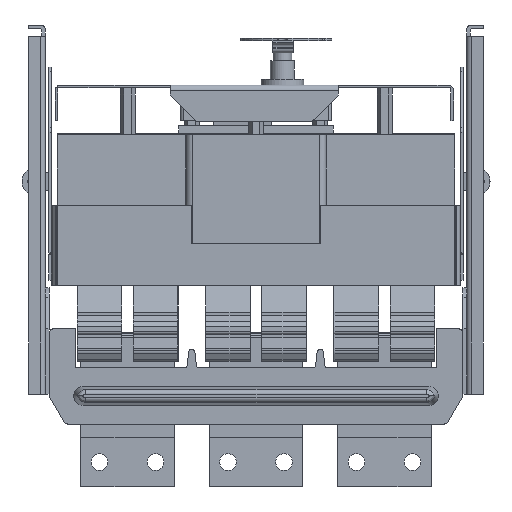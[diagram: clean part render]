
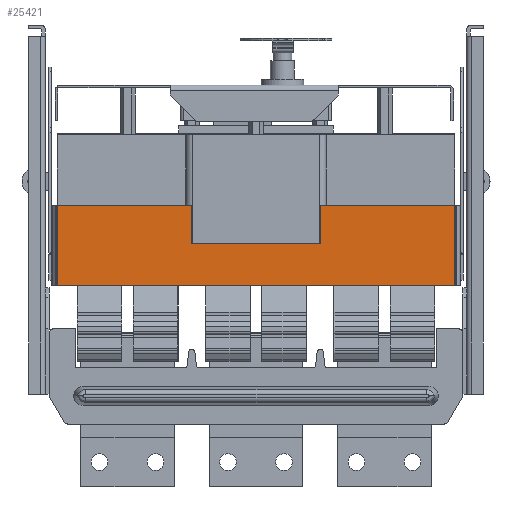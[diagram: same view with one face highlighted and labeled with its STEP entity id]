
A CAD part, front view. The second image highlights one B-rep face of the part: STEP entity #25421.
In plain terms, the highlighted planar face has unit normal (0, -1, 0).
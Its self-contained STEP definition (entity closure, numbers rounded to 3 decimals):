
#104 = EDGE_CURVE ( 'NONE', #33280, #29587, #23564, .T. ) ;
#279 = VERTEX_POINT ( 'NONE', #18992 ) ;
#545 = DIRECTION ( 'NONE',  ( 1., 0., 0. ) ) ;
#690 = CARTESIAN_POINT ( 'NONE',  ( 425., 0., 86. ) ) ;
#1281 = LINE ( 'NONE', #33480, #33387 ) ;
#1882 = ORIENTED_EDGE ( 'NONE', *, *, #33935, .F. ) ;
#1942 = VERTEX_POINT ( 'NONE', #25253 ) ;
#3554 = DIRECTION ( 'NONE',  ( -1., 0., 0. ) ) ;
#3824 = LINE ( 'NONE', #24131, #22523 ) ;
#3991 = DIRECTION ( 'NONE',  ( 0., 0., 1. ) ) ;
#4113 = VECTOR ( 'NONE', #10881, 1000. ) ;
#4268 = DIRECTION ( 'NONE',  ( 0., 0., -1. ) ) ;
#4338 = VERTEX_POINT ( 'NONE', #38911 ) ;
#5885 = CARTESIAN_POINT ( 'NONE',  ( 143.7, 0., 45. ) ) ;
#6014 = CARTESIAN_POINT ( 'NONE',  ( 143.7, 0., 86. ) ) ;
#6814 = LINE ( 'NONE', #20389, #23453 ) ;
#7518 = CARTESIAN_POINT ( 'NONE',  ( 0., 0., 315. ) ) ;
#7695 = ORIENTED_EDGE ( 'NONE', *, *, #31453, .T. ) ;
#7836 = VERTEX_POINT ( 'NONE', #32101 ) ;
#7955 = VECTOR ( 'NONE', #3991, 1000. ) ;
#8004 = EDGE_CURVE ( 'NONE', #23463, #279, #9022, .T. ) ;
#9022 = LINE ( 'NONE', #13860, #7955 ) ;
#9463 = DIRECTION ( 'NONE',  ( 1., 0., 0. ) ) ;
#9902 = LINE ( 'NONE', #690, #26494 ) ;
#9983 = VERTEX_POINT ( 'NONE', #28226 ) ;
#10375 = CARTESIAN_POINT ( 'NONE',  ( 0., 0., 0. ) ) ;
#10684 = VECTOR ( 'NONE', #9463, 1000. ) ;
#10881 = DIRECTION ( 'NONE',  ( 0., 0., -1. ) ) ;
#11081 = EDGE_CURVE ( 'NONE', #29587, #9983, #30552, .T. ) ;
#11151 = ORIENTED_EDGE ( 'NONE', *, *, #39822, .T. ) ;
#11450 = AXIS2_PLACEMENT_3D ( 'NONE', #42639, #32783, #12958 ) ;
#12958 = DIRECTION ( 'NONE',  ( 0., 0., 1. ) ) ;
#13735 = CARTESIAN_POINT ( 'NONE',  ( 0., 0., 86. ) ) ;
#13844 = DIRECTION ( 'NONE',  ( -1., 0., 0. ) ) ;
#13860 = CARTESIAN_POINT ( 'NONE',  ( 281.3, 0., 45. ) ) ;
#14164 = VERTEX_POINT ( 'NONE', #42565 ) ;
#15757 = DIRECTION ( 'NONE',  ( 0., 0., 1. ) ) ;
#16131 = PLANE ( 'NONE',  #11450 ) ;
#16350 = LINE ( 'NONE', #10375, #26220 ) ;
#16986 = DIRECTION ( 'NONE',  ( 1., 0., 0. ) ) ;
#18790 = ORIENTED_EDGE ( 'NONE', *, *, #29363, .T. ) ;
#18992 = CARTESIAN_POINT ( 'NONE',  ( 281.3, 0., 86. ) ) ;
#20108 = ORIENTED_EDGE ( 'NONE', *, *, #41796, .T. ) ;
#20389 = CARTESIAN_POINT ( 'NONE',  ( 425., 0., 86. ) ) ;
#21743 = VERTEX_POINT ( 'NONE', #6014 ) ;
#22523 = VECTOR ( 'NONE', #4268, 1000. ) ;
#22747 = ORIENTED_EDGE ( 'NONE', *, *, #40399, .F. ) ;
#23429 = ORIENTED_EDGE ( 'NONE', *, *, #11081, .T. ) ;
#23453 = VECTOR ( 'NONE', #13844, 1000. ) ;
#23463 = VERTEX_POINT ( 'NONE', #34396 ) ;
#23564 = LINE ( 'NONE', #41708, #42178 ) ;
#23807 = LINE ( 'NONE', #5885, #32574 ) ;
#24131 = CARTESIAN_POINT ( 'NONE',  ( 425., 0., 315. ) ) ;
#24266 = ORIENTED_EDGE ( 'NONE', *, *, #104, .T. ) ;
#25161 = FACE_OUTER_BOUND ( 'NONE', #33481, .T. ) ;
#25253 = CARTESIAN_POINT ( 'NONE',  ( 425., 0., 0. ) ) ;
#25421 = ADVANCED_FACE ( 'NONE', ( #25161 ), #16131, .F. ) ;
#26220 = VECTOR ( 'NONE', #545, 1000. ) ;
#26245 = LINE ( 'NONE', #29289, #10684 ) ;
#26494 = VECTOR ( 'NONE', #27195, 1000. ) ;
#26718 = EDGE_CURVE ( 'NONE', #4338, #1942, #3824, .T. ) ;
#27195 = DIRECTION ( 'NONE',  ( -1., 0., 0. ) ) ;
#27734 = ORIENTED_EDGE ( 'NONE', *, *, #8004, .F. ) ;
#28226 = CARTESIAN_POINT ( 'NONE',  ( 0., 0., 0. ) ) ;
#29289 = CARTESIAN_POINT ( 'NONE',  ( 0., 0., 86. ) ) ;
#29363 = EDGE_CURVE ( 'NONE', #14164, #21743, #23807, .T. ) ;
#29587 = VERTEX_POINT ( 'NONE', #13735 ) ;
#30552 = LINE ( 'NONE', #7518, #4113 ) ;
#30904 = CARTESIAN_POINT ( 'NONE',  ( 142.839, 0., 86. ) ) ;
#31453 = EDGE_CURVE ( 'NONE', #4338, #7836, #9902, .T. ) ;
#32101 = CARTESIAN_POINT ( 'NONE',  ( 282.161, 0., 86. ) ) ;
#32574 = VECTOR ( 'NONE', #15757, 1000. ) ;
#32783 = DIRECTION ( 'NONE',  ( 0., 1., 0. ) ) ;
#33280 = VERTEX_POINT ( 'NONE', #30904 ) ;
#33387 = VECTOR ( 'NONE', #16986, 1000. ) ;
#33399 = ORIENTED_EDGE ( 'NONE', *, *, #26718, .F. ) ;
#33480 = CARTESIAN_POINT ( 'NONE',  ( 143.7, 0., 45. ) ) ;
#33481 = EDGE_LOOP ( 'NONE', ( #22747, #18790, #20108, #24266, #23429, #11151, #33399, #7695, #1882, #27734 ) ) ;
#33935 = EDGE_CURVE ( 'NONE', #279, #7836, #26245, .T. ) ;
#34396 = CARTESIAN_POINT ( 'NONE',  ( 281.3, 0., 45. ) ) ;
#38911 = CARTESIAN_POINT ( 'NONE',  ( 425., 0., 86. ) ) ;
#39822 = EDGE_CURVE ( 'NONE', #9983, #1942, #16350, .T. ) ;
#40399 = EDGE_CURVE ( 'NONE', #14164, #23463, #1281, .T. ) ;
#41708 = CARTESIAN_POINT ( 'NONE',  ( 425., 0., 86. ) ) ;
#41796 = EDGE_CURVE ( 'NONE', #21743, #33280, #6814, .T. ) ;
#42178 = VECTOR ( 'NONE', #3554, 1000. ) ;
#42565 = CARTESIAN_POINT ( 'NONE',  ( 143.7, 0., 45. ) ) ;
#42639 = CARTESIAN_POINT ( 'NONE',  ( 0., 0., 315. ) ) ;
